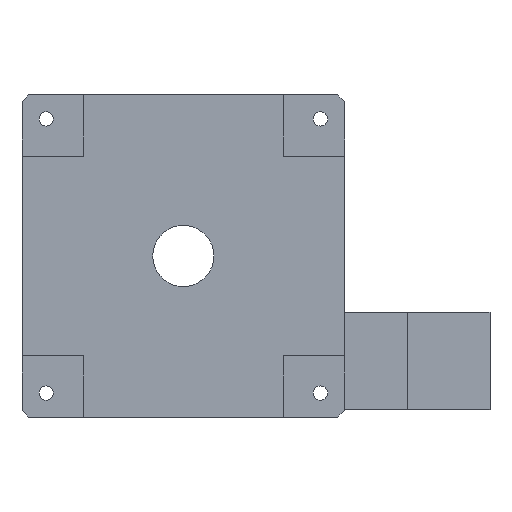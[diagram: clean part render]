
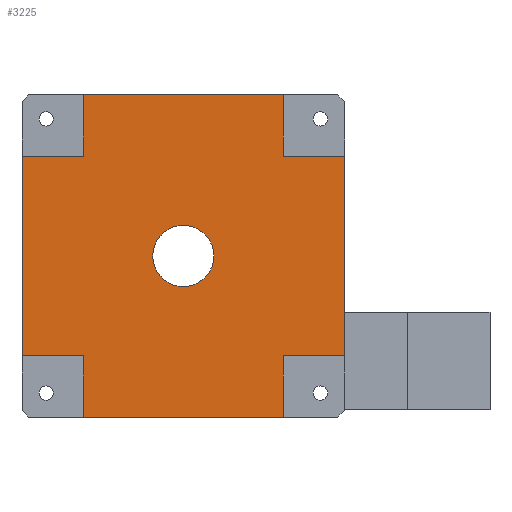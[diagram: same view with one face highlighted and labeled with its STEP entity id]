
A CAD part, front view. The second image highlights one B-rep face of the part: STEP entity #3225.
In plain terms, the highlighted planar face has unit normal (0, -1, 0).
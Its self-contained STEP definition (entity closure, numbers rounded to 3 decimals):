
#1557=DIRECTION('',(0.,0.,-1.));
#1558=VECTOR('',#1557,123.8);
#1559=CARTESIAN_POINT('',(100.,-36.233,61.9));
#1560=LINE('',#1559,#1558);
#1593=DIRECTION('',(0.,0.,-1.));
#1594=VECTOR('',#1593,38.1);
#1595=CARTESIAN_POINT('',(-61.9,-36.233,-61.9));
#1596=LINE('',#1595,#1594);
#1597=DIRECTION('',(1.,0.,0.));
#1598=VECTOR('',#1597,38.1);
#1599=CARTESIAN_POINT('',(-100.,-36.233,-61.9));
#1600=LINE('',#1599,#1598);
#1601=DIRECTION('',(-1.,0.,0.));
#1602=VECTOR('',#1601,38.1);
#1603=CARTESIAN_POINT('',(-61.9,-36.233,61.9));
#1604=LINE('',#1603,#1602);
#1605=DIRECTION('',(0.,0.,-1.));
#1606=VECTOR('',#1605,38.1);
#1607=CARTESIAN_POINT('',(-61.9,-36.233,100.));
#1608=LINE('',#1607,#1606);
#1609=DIRECTION('',(0.,0.,1.));
#1610=VECTOR('',#1609,38.1);
#1611=CARTESIAN_POINT('',(61.9,-36.233,61.9));
#1612=LINE('',#1611,#1610);
#1613=DIRECTION('',(-1.,0.,0.));
#1614=VECTOR('',#1613,38.1);
#1615=CARTESIAN_POINT('',(100.,-36.233,61.9));
#1616=LINE('',#1615,#1614);
#1617=DIRECTION('',(1.,0.,0.));
#1618=VECTOR('',#1617,38.1);
#1619=CARTESIAN_POINT('',(61.9,-36.233,-61.9));
#1620=LINE('',#1619,#1618);
#1621=DIRECTION('',(0.,0.,1.));
#1622=VECTOR('',#1621,38.1);
#1623=CARTESIAN_POINT('',(61.9,-36.233,-100.));
#1624=LINE('',#1623,#1622);
#1625=CARTESIAN_POINT('',(0.,-36.233,0.));
#1626=DIRECTION('',(0.,-1.,0.));
#1627=DIRECTION('',(1.,0.,0.));
#1628=AXIS2_PLACEMENT_3D('',#1625,#1626,#1627);
#1630=CARTESIAN_POINT('',(0.,-36.233,0.));
#1631=DIRECTION('',(0.,-1.,0.));
#1632=DIRECTION('',(-1.,0.,0.));
#1633=AXIS2_PLACEMENT_3D('',#1630,#1631,#1632);
#1635=DIRECTION('',(-1.,0.,0.));
#1636=VECTOR('',#1635,123.8);
#1637=CARTESIAN_POINT('',(61.9,-36.233,-100.));
#1638=LINE('',#1637,#1636);
#1960=DIRECTION('',(0.,0.,1.));
#1961=VECTOR('',#1960,123.8);
#1962=CARTESIAN_POINT('',(-100.,-36.233,-61.9));
#1963=LINE('',#1962,#1961);
#1984=DIRECTION('',(1.,0.,0.));
#1985=VECTOR('',#1984,123.8);
#1986=CARTESIAN_POINT('',(-61.9,-36.233,100.));
#1987=LINE('',#1986,#1985);
#2649=CARTESIAN_POINT('',(61.9,-36.233,-100.));
#2650=CARTESIAN_POINT('',(-61.9,-36.233,-100.));
#2651=VERTEX_POINT('',#2649);
#2652=VERTEX_POINT('',#2650);
#2653=CARTESIAN_POINT('',(-100.,-36.233,-61.9));
#2654=CARTESIAN_POINT('',(-100.,-36.233,61.9));
#2655=VERTEX_POINT('',#2653);
#2656=VERTEX_POINT('',#2654);
#2657=CARTESIAN_POINT('',(-61.9,-36.233,100.));
#2658=CARTESIAN_POINT('',(61.9,-36.233,100.));
#2659=VERTEX_POINT('',#2657);
#2660=VERTEX_POINT('',#2658);
#2661=CARTESIAN_POINT('',(100.,-36.233,61.9));
#2662=CARTESIAN_POINT('',(100.,-36.233,-61.9));
#2663=VERTEX_POINT('',#2661);
#2664=VERTEX_POINT('',#2662);
#2667=CARTESIAN_POINT('',(61.9,-36.233,-61.9));
#2668=VERTEX_POINT('',#2667);
#2669=CARTESIAN_POINT('',(61.9,-36.233,61.9));
#2670=VERTEX_POINT('',#2669);
#2671=CARTESIAN_POINT('',(-61.9,-36.233,61.9));
#2672=VERTEX_POINT('',#2671);
#2673=CARTESIAN_POINT('',(-61.9,-36.233,-61.9));
#2674=VERTEX_POINT('',#2673);
#2837=CARTESIAN_POINT('',(18.961,-36.233,0.));
#2838=CARTESIAN_POINT('',(-18.961,-36.233,0.));
#2839=VERTEX_POINT('',#2837);
#2840=VERTEX_POINT('',#2838);
#3189=CARTESIAN_POINT('',(0.,-36.233,0.));
#3190=DIRECTION('',(0.,-1.,0.));
#3191=DIRECTION('',(1.,0.,0.));
#3192=AXIS2_PLACEMENT_3D('',#3189,#3190,#3191);
#3193=PLANE('',#3192);
#3195=ORIENTED_EDGE('',*,*,#3194,.T.);
#3197=ORIENTED_EDGE('',*,*,#3196,.F.);
#3199=ORIENTED_EDGE('',*,*,#3198,.F.);
#3201=ORIENTED_EDGE('',*,*,#3200,.T.);
#3203=ORIENTED_EDGE('',*,*,#3202,.F.);
#3205=ORIENTED_EDGE('',*,*,#3204,.F.);
#3207=ORIENTED_EDGE('',*,*,#3206,.T.);
#3209=ORIENTED_EDGE('',*,*,#3208,.F.);
#3211=ORIENTED_EDGE('',*,*,#3210,.F.);
#3212=ORIENTED_EDGE('',*,*,#3161,.T.);
#3214=ORIENTED_EDGE('',*,*,#3213,.F.);
#3216=ORIENTED_EDGE('',*,*,#3215,.F.);
#3217=EDGE_LOOP('',(#3195,#3197,#3199,#3201,#3203,#3205,#3207,#3209,#3211,#3212,
#3214,#3216));
#3218=FACE_OUTER_BOUND('',#3217,.F.);
#3220=ORIENTED_EDGE('',*,*,#3219,.T.);
#3222=ORIENTED_EDGE('',*,*,#3221,.T.);
#3223=EDGE_LOOP('',(#3220,#3222));
#3224=FACE_BOUND('',#3223,.F.);
#3225=ADVANCED_FACE('',(#3218,#3224),#3193,.T.);
#1629=CIRCLE('',#1628,18.961);
#1634=CIRCLE('',#1633,18.961);
#3161=EDGE_CURVE('',#2663,#2664,#1560,.T.);
#3194=EDGE_CURVE('',#2651,#2652,#1638,.T.);
#3196=EDGE_CURVE('',#2674,#2652,#1596,.T.);
#3198=EDGE_CURVE('',#2655,#2674,#1600,.T.);
#3200=EDGE_CURVE('',#2655,#2656,#1963,.T.);
#3202=EDGE_CURVE('',#2672,#2656,#1604,.T.);
#3204=EDGE_CURVE('',#2659,#2672,#1608,.T.);
#3206=EDGE_CURVE('',#2659,#2660,#1987,.T.);
#3208=EDGE_CURVE('',#2670,#2660,#1612,.T.);
#3210=EDGE_CURVE('',#2663,#2670,#1616,.T.);
#3213=EDGE_CURVE('',#2668,#2664,#1620,.T.);
#3215=EDGE_CURVE('',#2651,#2668,#1624,.T.);
#3219=EDGE_CURVE('',#2839,#2840,#1629,.T.);
#3221=EDGE_CURVE('',#2840,#2839,#1634,.T.);
